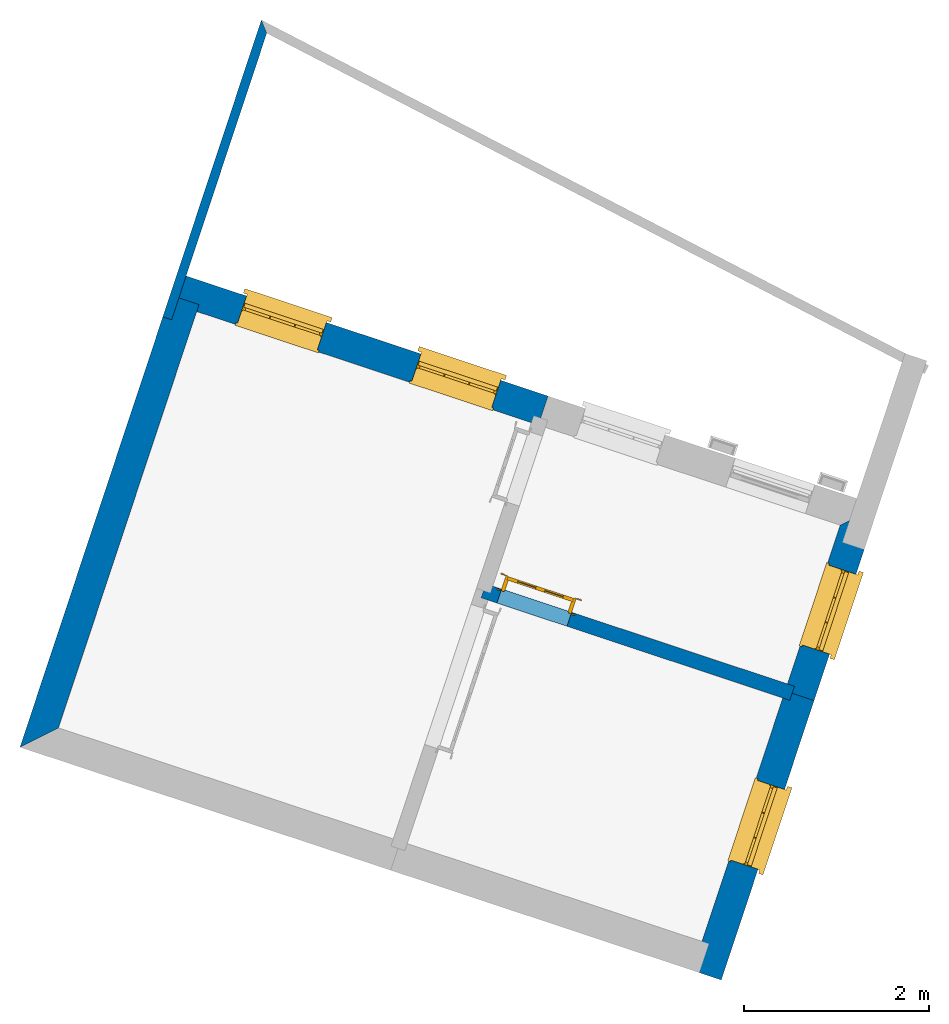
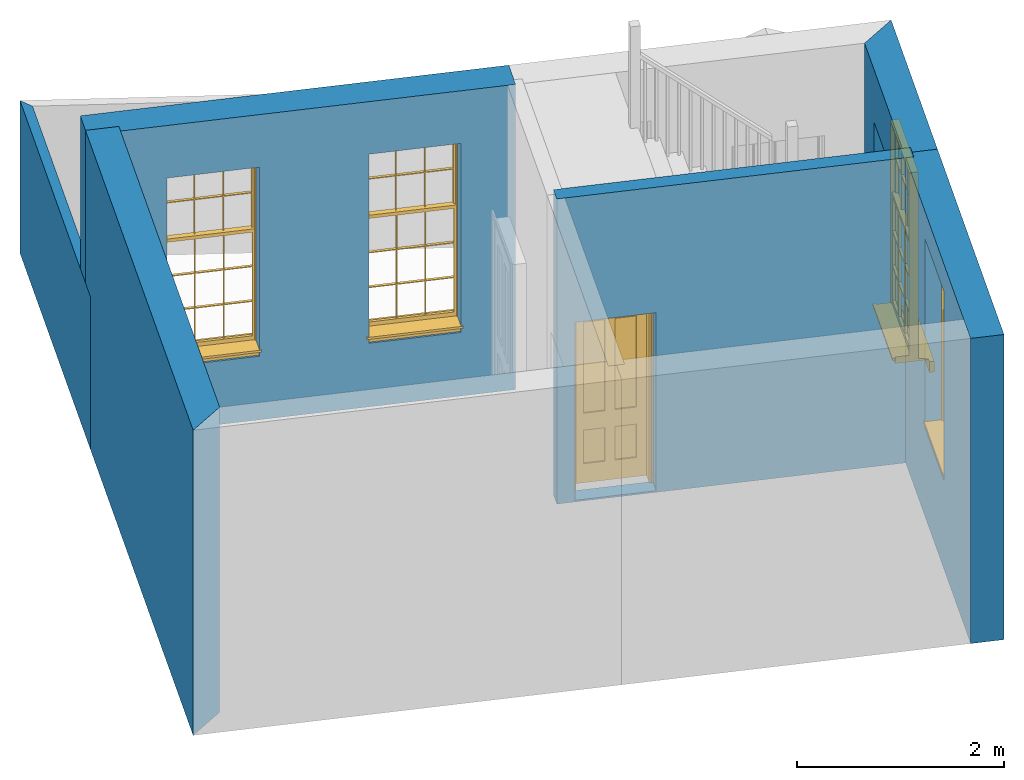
# One storey, part 2 of 6: 6 walls, 4 windows, 1 door, 5 openings.
"""IFC4 building model written with IfcOpenShell, lengths in metres."""

from ifc_helpers import new_model, si_unit, frame, origin, origin_with_axes, place, context, subcontext, project, spatial, polyline, outline, extrude, faceted_brep, source, transform, mapped, material, layer, layer_set, layer_usage, type_object, type_shapes, element, fill, save


model = new_model("IFC4")

# Units and contexts
model_context = context("Model", 3, world=origin_with_axes())
body_context = subcontext(model_context, "Body", "Model", "MODEL_VIEW")
ifc_project = project(units=[si_unit("PLANEANGLEUNIT", "RADIAN"), si_unit("MASSUNIT", "GRAM", prefix="KILO"), si_unit("FORCEUNIT", "NEWTON", prefix="KILO"), si_unit("LENGTHUNIT", "METRE"), si_unit("AREAUNIT", "SQUARE_METRE"), si_unit("VOLUMEUNIT", "CUBIC_METRE")], contexts=[model_context, model_context])

# Sites, building, storey
site_1_placement = place(None, origin_with_axes())
site_1 = spatial("IfcSite", under=ifc_project, at=site_1_placement, Name="Tamar")
site_2_placement = place(site_1_placement, origin_with_axes())
site_2 = spatial("IfcSite", under=site_1, at=site_2_placement, Name="Site plot-17", CompositionType="ELEMENT")
building_placement = place(None, origin_with_axes())
building = spatial("IfcBuilding", under=site_2, at=building_placement, Name="Building plot-17", CompositionType="ELEMENT")
storey_placement = place(None, frame((0.0, 0.0, 26.8), z_axis=(0.0, 0.0, 1.0), x_axis=(1.0, 0.0, 0.0)))
storey = spatial("IfcBuildingStorey", under=building, at=storey_placement, Name="plot-17 0", CompositionType="ELEMENT", Elevation=26.8)

# Wall, opening, window
ifc_material_1 = material(Name="Masonry")
ifc_layer_1 = layer(ifc_material_1, 0.33, ventilated=False)
ifc_layer_set_1 = layer_set([ifc_layer_1], Name="exterior_0.08_0.25")
ifc_layer_usage_1 = layer_usage(ifc_layer_set_1, "AXIS2", "POSITIVE", -0.25)
wall_type_1 = type_object("IfcWallType", Name="exterior_0.08_0.25", PredefinedType="SOLIDWALL", material=ifc_layer_set_1)
wall_1_placement = place(storey_placement, frame((272.909805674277, 300.590860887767, 0.0), z_axis=(0.0, 0.0, 1.0), x_axis=(0.315038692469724, 0.949078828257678, 0.0)))
wall_1 = element("IfcWall", 1, at=wall_1_placement, inside=storey, type_object=wall_type_1, material=ifc_layer_usage_1, Name="exterior", context=body_context, shape_type="SweptSolid", body=[
    extrude(outline(polyline([(-0.249999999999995, 0.0799999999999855), (-0.249999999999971, -0.249999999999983), (2.93790855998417, -0.249999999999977), (2.93790855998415, 0.0799999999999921), (-0.249999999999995, 0.0799999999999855)])), origin_with_axes(), (0.0, 0.0, 1.0), 3.6),
])
opening_1_placement = place(wall_1_placement, frame((1.01395427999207, 0.0, 1.05)))
opening_1 = element("IfcOpeningElement", 2, at=opening_1_placement, cuts=wall_1, Name="My Opening", ObjectType="Opening", context=body_context, shape_type="SweptSolid", body=[
    extrude(outline(polyline([(0.0, -0.270000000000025), (0.909999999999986, -0.270000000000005), (0.910000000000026, 1.10000000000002), (3.99680288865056e-14, 1.1), (0.0, -0.270000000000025)])), origin_with_axes(), (0.0, 0.0, 1.0), 2.23),
])
window_type = type_object("IfcWindowType", Name="sash_big_taller", PartitioningType="DOUBLE_PANEL_HORIZONTAL", PredefinedType="NOTDEFINED")
shared_shape_1 = source(origin(), body_context, "Body", "Brep", [
    faceted_brep([(0.033125, 0.145, 1.385209), (0.01, 0.145, 1.385209), (0.033125, 0.145, 1.786042), (0.876875, 0.145, 1.385209), (0.876875, 0.145, 1.786042), (0.9, 0.145, 1.385209), (0.876875, 0.145, 1.796042), (0.876875, 0.145, 2.196875), (0.9, 0.145, 2.22), (0.033125, 0.145, 2.196875), (0.033125, 0.145, 1.796042), (0.01, 0.145, 2.22), (0.876875, 0.115, 1.786042), (0.876875, 0.115, 1.385209), (0.9, 0.115, 1.347084), (0.033125, 0.115, 2.196875), (0.01, 0.115, 2.22), (0.033125, 0.115, 1.796042), (0.01, 0.115, 1.347084), (0.033125, 0.115, 1.385209), (0.033125, 0.115, 1.786042), (0.876875, 0.115, 2.196875), (0.876875, 0.115, 1.796042), (0.9, 0.115, 2.22), (0.033125, 0.145, 1.347084), (0.01, 0.145, 1.347084), (0.033125, 0.145, 0.94625), (0.876875, 0.145, 1.347084), (0.876875, 0.145, 0.94625), (0.9, 0.145, 1.347084), (0.876875, 0.145, 0.52625), (0.876875, 0.145, 0.125417), (0.9, 0.145, 0.077167), (0.033125, 0.145, 0.125417), (0.033125, 0.145, 0.52625), (0.01, 0.145, 0.077167), (-0.0425, 0.0, 0.01), (-0.0425, -0.05, 0.001667), (0.0, 0.0, 0.01), (0.9525, 0.0, 0.01), (0.91, 0.0, 0.01), (0.9525, -0.05, 0.001667), (-0.02, 0.33, 0.077167), (0.0, 0.33, 0.077167), (-0.02, 0.36, 0.077167), (0.0, 0.19, 0.077167), (0.01, 0.19, 0.077167), (0.91, 0.19, 0.077167), (0.91, 0.33, 0.077167), (0.9, 0.19, 0.077167), (0.93, 0.33, 0.077167), (0.93, 0.36, 0.077167), (0.01, 0.175, 1.385209), (0.9, 0.175, 1.385209), (0.876875, 0.175, 0.125417), (0.876875, 0.175, 0.52625), (0.9, 0.175, 0.077167), (0.876875, 0.175, 0.94625), (0.876875, 0.175, 1.347084), (0.033125, 0.175, 0.125417), (0.01, 0.175, 0.077167), (0.033125, 0.175, 0.52625), (0.033125, 0.175, 1.347084), (0.033125, 0.175, 0.94625), (-0.02, 0.33, 0.052167), (-0.02, 0.36, 0.052167), (0.93, 0.36, 0.052167), (0.93, 0.33, 0.052167), (0.91, 0.33, 0.052167), (0.0, 0.33, 0.052167), (0.91, 0.1, 0.026667), (0.0, 0.1, 0.026667), (-0.0425, -0.05, -0.123333), (0.9525, -0.05, -0.123333), (-0.0425, 0.0, -0.123333), (0.9525, 0.0, -0.123333), (0.01, 0.19, 2.22), (0.9, 0.19, 2.22), (0.0, 0.19, 2.23), (0.91, 0.19, 2.23), (0.01, 0.1, 0.077167), (0.9, 0.1, 0.077167), (0.592292, 0.145, 0.125417), (0.592292, 0.175, 0.125417), (0.317708, 0.175, 0.125417), (0.317708, 0.145, 0.125417), (0.592292, 0.145, 0.53625), (0.317708, 0.145, 0.53625), (0.317708, 0.145, 0.52625), (0.592292, 0.145, 0.52625), (0.592292, 0.175, 0.53625), (0.317708, 0.175, 0.53625), (0.592292, 0.115, 1.796042), (0.592292, 0.145, 1.796042), (0.317708, 0.145, 1.796042), (0.317708, 0.115, 1.796042), (0.317708, 0.115, 1.786042), (0.592292, 0.115, 1.786042), (0.317708, 0.145, 1.786042), (0.592292, 0.145, 1.786042), (0.602292, 0.115, 1.786042), (0.592292, 0.115, 1.385209), (0.602292, 0.115, 1.385209), (0.602292, 0.145, 1.385209), (0.592292, 0.145, 1.385209), (0.602292, 0.145, 1.786042), (0.876875, 0.145, 0.53625), (0.876875, 0.175, 0.53625), (0.602292, 0.175, 0.53625), (0.602292, 0.145, 0.53625), (0.317708, 0.175, 0.52625), (0.307708, 0.175, 0.125417), (0.307708, 0.175, 0.52625), (0.602292, 0.175, 0.52625), (0.602292, 0.175, 0.125417), (0.592292, 0.175, 0.52625), (0.307708, 0.175, 0.53625), (0.033125, 0.175, 0.53625), (0.317708, 0.175, 1.347084), (0.317708, 0.175, 0.94625), (0.307708, 0.175, 0.94625), (0.307708, 0.175, 1.347084), (0.602292, 0.175, 1.347084), (0.602292, 0.175, 0.94625), (0.592292, 0.175, 0.94625), (0.592292, 0.175, 1.347084), (0.307708, 0.145, 0.52625), (0.307708, 0.145, 0.125417), (0.307708, 0.145, 0.53625), (0.033125, 0.145, 0.53625), (0.307708, 0.145, 1.347084), (0.307708, 0.145, 0.94625), (0.592292, 0.145, 1.347084), (0.592292, 0.145, 0.94625), (0.317708, 0.145, 0.94625), (0.317708, 0.145, 1.347084), (0.602292, 0.145, 0.94625), (0.602292, 0.145, 1.347084), (0.602292, 0.145, 0.52625), (0.602292, 0.145, 0.125417), (0.307708, 0.115, 1.796042), (0.307708, 0.115, 1.786042), (0.307708, 0.115, 1.385209), (0.317708, 0.115, 1.385209), (0.317708, 0.115, 2.196875), (0.307708, 0.115, 2.196875), (0.602292, 0.115, 2.196875), (0.592292, 0.115, 2.196875), (0.602292, 0.115, 1.796042), (0.602292, 0.145, 1.796042), (0.307708, 0.145, 1.796042), (0.307708, 0.145, 2.196875), (0.317708, 0.145, 2.196875), (0.592292, 0.145, 2.196875), (0.602292, 0.145, 2.196875), (0.307708, 0.145, 1.786042), (0.317708, 0.145, 1.385209), (0.307708, 0.145, 1.385209), (0.876875, 0.175, 0.93625), (0.033125, 0.175, 0.93625), (0.033125, 0.145, 0.93625), (0.876875, 0.145, 0.93625), (0.91, 0.1, 2.23), (0.9, 0.1, 2.22), (0.01, 0.1, 2.22), (0.0, 0.1, 2.23), (0.91, 0.0, 0.0), (0.0, 0.0, 0.0), (0.91, 0.33, 0.0), (0.0, 0.33, 0.0), (0.317708, 0.145, 0.93625), (0.592292, 0.145, 0.93625), (0.317708, 0.175, 0.93625), (0.307708, 0.175, 0.93625), (0.602292, 0.175, 0.93625), (0.592292, 0.175, 0.93625), (0.307708, 0.145, 0.93625), (0.602292, 0.145, 0.93625)], [[[0, 1, 2]], [[3, 4, 5]], [[6, 7, 8]], [[9, 10, 11]], [[12, 13, 14]], [[15, 16, 17]], [[18, 19, 20]], [[21, 22, 23]], [[24, 25, 26]], [[27, 28, 29]], [[30, 31, 32]], [[33, 34, 35]], [[14, 27, 29]], [[25, 24, 18]], [[36, 37, 38]], [[39, 40, 41]], [[42, 43, 44]], [[45, 46, 43]], [[47, 48, 49]], [[50, 51, 48]], [[1, 0, 52]], [[5, 53, 3]], [[54, 55, 56]], [[57, 58, 53]], [[59, 60, 61]], [[62, 63, 52]], [[48, 43, 46, 49]], [[51, 44, 43, 48]], [[64, 42, 44, 65]], [[65, 44, 51, 66]], [[66, 51, 50, 67]], [[65, 66, 68, 69]], [[60, 56, 49, 46]], [[70, 71, 38, 40]], [[37, 41, 40, 38]], [[37, 72, 73, 41]], [[74, 75, 73, 72]], [[8, 11, 76, 77]], [[76, 78, 79, 77]], [[32, 35, 80, 81]], [[81, 80, 71, 70]], [[82, 83, 84, 85]], [[86, 87, 88, 89]], [[86, 90, 91, 87]], [[92, 93, 94, 95]], [[92, 95, 96, 97]], [[96, 98, 99, 97]], [[100, 97, 101, 102]], [[103, 104, 99, 105]], [[97, 99, 104, 101]], [[102, 103, 105, 100]], [[106, 107, 108, 109]], [[110, 84, 111, 112]], [[113, 114, 83, 115]], [[116, 112, 61, 117]], [[90, 115, 110, 91]], [[118, 119, 120, 121]], [[122, 123, 124, 125]], [[113, 108, 107, 55]], [[126, 112, 111, 127]], [[34, 61, 112, 126]], [[89, 115, 83, 82]], [[88, 110, 115, 89]], [[85, 84, 110, 88]], [[128, 116, 117, 129]], [[130, 121, 120, 131]], [[132, 125, 124, 133]], [[134, 119, 118, 135]], [[136, 123, 122, 137]], [[138, 113, 55, 30]], [[139, 114, 113, 138]], [[138, 30, 106, 109]], [[88, 126, 127, 85]], [[138, 89, 82, 139]], [[137, 132, 133, 136]], [[128, 129, 34, 126]], [[135, 130, 131, 134]], [[140, 17, 20, 141]], [[96, 141, 142, 143]], [[144, 145, 140, 95]], [[146, 147, 92, 148]], [[100, 12, 22, 148]], [[149, 6, 4, 105]], [[94, 150, 151, 152]], [[149, 93, 153, 154]], [[99, 98, 94, 93]], [[155, 2, 10, 150]], [[156, 157, 155, 98]], [[141, 155, 157, 142]], [[20, 2, 155, 141]], [[143, 156, 98, 96]], [[140, 150, 10, 17]], [[145, 151, 150, 140]], [[147, 153, 93, 92]], [[95, 94, 152, 144]], [[22, 6, 149, 148]], [[148, 149, 154, 146]], [[100, 105, 4, 12]], [[109, 86, 89, 138]], [[108, 113, 115, 90]], [[91, 110, 112, 116]], [[87, 128, 126, 88]], [[97, 100, 148, 92]], [[141, 96, 95, 140]], [[98, 155, 150, 94]], [[105, 99, 93, 149]], [[143, 101, 104, 156]], [[135, 118, 125, 132]], [[144, 152, 153, 147]], [[127, 111, 59, 33]], [[15, 9, 151, 145]], [[146, 154, 7, 21]], [[31, 54, 114, 139]], [[36, 74, 72, 37]], [[39, 41, 73, 75]], [[18, 14, 101, 143]], [[23, 16, 144, 147]], [[83, 56, 60, 84]], [[52, 53, 125, 118]], [[53, 52, 156, 104]], [[11, 8, 153, 152]], [[14, 18, 135, 132]], [[2, 1, 11, 10]], [[8, 5, 4, 6]], [[57, 53, 56, 158]], [[60, 52, 63, 159]], [[26, 25, 35, 160]], [[32, 29, 28, 161]], [[14, 23, 22, 12]], [[18, 20, 17, 16]], [[19, 0, 2, 20]], [[17, 10, 9, 15]], [[12, 4, 3, 13]], [[21, 7, 6, 22]], [[27, 58, 57, 28]], [[30, 55, 54, 31]], [[33, 59, 61, 34]], [[26, 63, 62, 24]], [[5, 8, 77, 53]], [[76, 11, 1, 52]], [[46, 45, 78, 76]], [[49, 77, 79, 47]], [[70, 162, 163, 81]], [[71, 80, 164, 165]], [[19, 142, 157, 0]], [[102, 13, 3, 103]], [[121, 130, 24, 62]], [[29, 32, 81, 14]], [[80, 35, 25, 18]], [[60, 46, 76, 52]], [[77, 49, 56, 53]], [[23, 14, 81, 163]], [[16, 164, 80, 18]], [[35, 85, 127]], [[127, 33, 35]], [[139, 82, 32]], [[32, 31, 139]], [[32, 82, 85, 35]], [[102, 101, 14]], [[14, 13, 102]], [[18, 143, 142]], [[142, 19, 18]], [[146, 21, 23]], [[23, 147, 146]], [[16, 15, 145]], [[145, 144, 16]], [[11, 152, 151]], [[151, 9, 11]], [[154, 153, 8]], [[8, 7, 154]], [[23, 163, 164, 16]], [[162, 165, 164, 163]], [[52, 118, 121]], [[121, 62, 52]], [[125, 53, 122]], [[58, 122, 53]], [[27, 137, 122, 58]], [[56, 83, 114]], [[114, 54, 56]], [[111, 84, 60]], [[60, 59, 111]], [[137, 27, 14]], [[14, 132, 137]], [[130, 135, 18]], [[18, 24, 130]], [[157, 156, 52]], [[52, 0, 157]], [[103, 3, 53]], [[53, 104, 103]], [[79, 78, 165, 162]], [[78, 45, 71, 165]], [[162, 70, 47, 79]], [[166, 75, 74, 167]], [[68, 66, 67]], [[48, 68, 67, 50]], [[69, 64, 65]], [[42, 64, 69, 43]], [[69, 68, 168, 169]], [[70, 68, 48, 47]], [[166, 168, 68, 70]], [[43, 69, 71, 45]], [[69, 169, 167, 71]], [[168, 166, 167, 169]], [[38, 167, 74, 36]], [[71, 167, 38]], [[39, 75, 166, 40]], [[40, 166, 70]], [[133, 134, 170, 171]], [[133, 124, 119, 134]], [[28, 57, 123, 136]], [[172, 91, 116, 173]], [[174, 108, 90, 175]], [[120, 173, 159, 63]], [[124, 175, 172, 119]], [[174, 123, 57, 158]], [[176, 173, 116, 128]], [[160, 159, 173, 176]], [[171, 175, 90, 86]], [[170, 172, 175, 171]], [[87, 91, 172, 170]], [[131, 120, 63, 26]], [[177, 174, 158, 161]], [[109, 108, 174, 177]], [[177, 161, 28, 136]], [[170, 176, 128, 87]], [[177, 171, 86, 109]], [[131, 26, 160, 176]], [[136, 133, 171, 177]], [[123, 174, 175, 124]], [[119, 172, 173, 120]], [[134, 131, 176, 170]], [[129, 117, 159, 160]], [[161, 158, 107, 106]], [[35, 34, 129]], [[35, 129, 160]], [[32, 106, 30]], [[32, 161, 106]], [[56, 55, 107]], [[56, 107, 158]], [[60, 117, 61]], [[60, 159, 117]]]),
])
type_shapes(window_type, [shared_shape_1])
window_1_placement = place(storey_placement, frame((273.485491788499, 301.468122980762, 1.05), z_axis=(0.0, 0.0, 1.0), x_axis=(0.286685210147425, 0.86366173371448, 0.0)))
window_1 = element("IfcWindow", 3, at=window_1_placement, inside=storey, type_object=window_type, Name="kitchen street window", OverallHeight=2.23, OverallWidth=0.91, context=body_context, shape_type="MappedRepresentation", body=[
    mapped(shared_shape_1, transform((0.0, 0.0, 0.0), scale=1.0)),
])
fill(opening_1, window_1)

wall_2_placement = place(storey_placement, frame((273.83536054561, 303.379167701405, 0.0), z_axis=(0.0, 0.0, 1.0), x_axis=(0.315038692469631, 0.949078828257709, 0.0)))
wall_2 = element("IfcWall", 4, at=wall_2_placement, inside=storey, type_object=wall_type_1, material=ifc_layer_usage_1, Name="exterior", context=body_context, shape_type="SweptSolid", body=[
    extrude(outline(polyline([(-1.07242967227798e-14, 0.0799999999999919), (-1.81368383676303e-14, -0.249999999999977), (2.2209590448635, -0.249999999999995), (1.89095904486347, 0.0800000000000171), (-1.07242967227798e-14, 0.0799999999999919)])), origin_with_axes(), (0.0, 0.0, 1.0), 3.6),
])
opening_2_placement = place(wall_2_placement, frame((0.530479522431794, 0.0, 0.75)))
opening_2 = element("IfcOpeningElement", 5, at=opening_2_placement, cuts=wall_2, Name="My Opening", ObjectType="Opening", context=body_context, shape_type="SweptSolid", body=[
    extrude(outline(polyline([(0.0, -0.26999999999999), (0.909999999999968, -0.270000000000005), (0.909999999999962, 1.10000000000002), (-6.10622663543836e-15, 1.10000000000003), (0.0, -0.26999999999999)])), origin_with_axes(), (0.0, 0.0, 1.0), 2.23),
])
window_2_placement = place(storey_placement, frame((274.258733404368, 303.797574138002, 0.75), z_axis=(0.0, 0.0, 1.0), x_axis=(0.286685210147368, 0.86366173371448, 0.0)))
window_2 = element("IfcWindow", 6, at=window_2_placement, inside=storey, type_object=window_type, Name="circulation street window", OverallHeight=2.23, OverallWidth=0.91, context=body_context, shape_type="MappedRepresentation", body=[
    mapped(shared_shape_1, transform((0.0, 0.0, 0.0), scale=1.0)),
])
fill(opening_2, window_2)

# Wall, openings, windows
wall_3_placement = place(storey_placement, frame((271.113771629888, 306.359283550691, 0.0), z_axis=(0.0, 0.0, 1.0), x_axis=(-0.949078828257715, 0.315038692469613, 0.0)))
wall_3 = element("IfcWall", 7, at=wall_3_placement, inside=storey, type_object=wall_type_1, material=ifc_layer_usage_1, Name="exterior", context=body_context, shape_type="SweptSolid", body=[
    extrude(outline(polyline([(-9.26768411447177e-15, 0.0799999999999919), (-2.27997750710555e-14, -0.249999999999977), (4.22814578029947, -0.250000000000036), (4.22814578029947, 0.0799999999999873), (-9.26768411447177e-15, 0.0799999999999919)])), origin_with_axes(), (0.0, 0.0, 1.0), 3.6),
])
opening_3_placement = place(wall_3_placement, frame((0.539536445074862, 0.0, 0.75)))
opening_3 = element("IfcOpeningElement", 8, at=opening_3_placement, cuts=wall_3, Name="My Opening", ObjectType="Opening", context=body_context, shape_type="SweptSolid", body=[
    extrude(outline(polyline([(0.0, -0.269999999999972), (0.910000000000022, -0.269999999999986), (0.909999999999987, 1.10000000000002), (-3.45279360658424e-14, 1.10000000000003), (0.0, -0.269999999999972)])), origin_with_axes(), (0.0, 0.0, 1.0), 2.23),
])
opening_4_placement = place(wall_3_placement, frame((2.52860933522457, 0.0, 0.75)))
opening_4 = element("IfcOpeningElement", 9, at=opening_4_placement, cuts=wall_3, Name="My Opening", ObjectType="Opening", context=body_context, shape_type="SweptSolid", body=[
    extrude(outline(polyline([(0.0, -0.270000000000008), (0.910000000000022, -0.270000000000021), (0.909999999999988, 1.09999999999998), (-3.41948691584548e-14, 1.1), (0.0, -0.270000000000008)])), origin_with_axes(), (0.0, 0.0, 1.0), 2.23),
])
window_3_placement = place(storey_placement, frame((270.686769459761, 306.785509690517, 0.75), z_axis=(0.0, 0.0, 1.0), x_axis=(-0.863661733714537, 0.286685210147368, 0.0)))
window_3 = element("IfcWindow", 10, at=window_3_placement, inside=storey, type_object=window_type, Name="living outside window", OverallHeight=2.23, OverallWidth=0.91, context=body_context, shape_type="MappedRepresentation", body=[
    mapped(shared_shape_1, transform((0.0, 0.0, 0.0), scale=1.0)),
])
fill(opening_3, window_3)
window_4_placement = place(storey_placement, frame((268.798982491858, 307.412144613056, 0.75), z_axis=(0.0, 0.0, 1.0), x_axis=(-0.863661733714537, 0.286685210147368, 0.0)))
window_4 = element("IfcWindow", 11, at=window_4_placement, inside=storey, type_object=window_type, Name="living outside window", OverallHeight=2.23, OverallWidth=0.91, context=body_context, shape_type="MappedRepresentation", body=[
    mapped(shared_shape_1, transform((0.0, 0.0, 0.0), scale=1.0)),
])
fill(opening_4, window_4)

# Wall
ifc_material_2 = material(Name="Masonry")
ifc_layer_2 = layer(ifc_material_2, 0.33, ventilated=False)
ifc_layer_set_2 = layer_set([ifc_layer_2], Name="party_0.08_0.25")
ifc_layer_usage_2 = layer_usage(ifc_layer_set_2, "AXIS2", "POSITIVE", -0.25)
wall_type_2 = type_object("IfcWallType", Name="party_0.08_0.25", PredefinedType="SOLIDWALL", material=ifc_layer_set_2)
wall_4_placement = place(storey_placement, frame((267.338197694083, 307.61255339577, 0.0), z_axis=(0.0, 0.0, 1.0), x_axis=(-0.315038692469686, -0.94907882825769, 0.0)))
element("IfcWall", 12, at=wall_4_placement, inside=storey, type_object=wall_type_2, material=ifc_layer_usage_2, Name="party", context=body_context, shape_type="SweptSolid", body=[
    extrude(outline(polyline([(-1.54334731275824e-14, 0.0799999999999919), (-3.53740559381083e-15, -0.249999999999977), (5.15886760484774, -0.249999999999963), (4.82886760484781, 0.0800000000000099), (-1.54334731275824e-14, 0.0799999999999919)])), origin_with_axes(), (0.0, 0.0, 1.0), 3.6),
])

# Wall, opening, door
ifc_material_3 = material(Name="Masonry")
ifc_layer_3 = layer(ifc_material_3, 0.16, ventilated=False)
ifc_layer_set_3 = layer_set([ifc_layer_3], Name="interior_0.08_0.08")
ifc_layer_usage_3 = layer_usage(ifc_layer_set_3, "AXIS2", "POSITIVE", -0.08)
wall_type_3 = type_object("IfcWallType", Name="interior_0.08_0.08", PredefinedType="SOLIDWALL", material=ifc_layer_set_3)
wall_5_placement = place(storey_placement, frame((270.492843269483, 304.488688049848, 0.0), z_axis=(0.0, 0.0, 1.0), x_axis=(0.949078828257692, -0.315038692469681, 0.0)))
wall_5 = element("IfcWall", 13, at=wall_5_placement, inside=storey, type_object=wall_type_3, material=ifc_layer_usage_3, Name="interior", context=body_context, shape_type="SweptSolid", body=[
    extrude(outline(polyline([(-1.498755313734e-14, 0.0799999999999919), (1.49777559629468e-14, -0.0799999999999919), (3.52185421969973, -0.079999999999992), (3.5218542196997, 0.0799999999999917), (-1.498755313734e-14, 0.0799999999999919)])), origin_with_axes(), (0.0, 0.0, 1.0), 3.6),
])
opening_5_placement = place(wall_5_placement, frame((0.180000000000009, 0.0, 0.0199999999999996)))
opening_5 = element("IfcOpeningElement", 14, at=opening_5_placement, cuts=wall_5, Name="My Opening", ObjectType="Opening", context=body_context, shape_type="SweptSolid", body=[
    extrude(outline(polyline([(0.0, -0.100000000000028), (0.799999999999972, -0.10000000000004), (0.799999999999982, 1.10000000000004), (9.27036225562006e-15, 1.10000000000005), (0.0, -0.100000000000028)])), origin_with_axes(), (0.0, 0.0, 1.0), 2.1),
])
door_type = type_object("IfcDoorType", Name="door_inside", OperationType="SINGLE_SWING_LEFT", PredefinedType="NOTDEFINED")
shared_shape_2 = source(origin(), body_context, "Body", "Brep", [
    faceted_brep([(0.773, 0.33, 1.895), (0.66, 0.33, 1.895), (0.66, 0.33, 2.073), (0.773, 0.33, 2.073), (0.773, 0.33, 0.82), (0.66, 0.33, 0.82), (0.45, 0.33, 1.895), (0.45, 0.33, 2.073), (0.773, 0.33, 0.62), (0.66, 0.33, 0.62), (0.66, 0.315, 0.82), (0.66, 0.315, 1.895), (0.45, 0.315, 1.895), (0.35, 0.33, 1.895), (0.35, 0.33, 2.073), (0.773, 0.33, 0.225), (0.66, 0.33, 0.225), (0.45, 0.33, 0.62), (0.45, 0.33, 0.82), (0.45, 0.315, 0.82), (0.35, 0.33, 0.82), (0.14, 0.33, 2.073), (0.14, 0.33, 1.895), (0.773, 0.33, 0.0), (0.66, 0.33, 0.0), (0.66, 0.315, 0.225), (0.66, 0.315, 0.62), (0.45, 0.315, 0.62), (0.35, 0.33, 0.62), (0.35, 0.315, 0.82), (0.35, 0.315, 1.895), (0.14, 0.315, 1.895), (0.027, 0.33, 2.073), (0.027, 0.33, 1.895), (0.773, 0.292, 0.0), (0.66, 0.292, 0.0), (0.45, 0.33, 0.0), (0.45, 0.33, 0.225), (0.45, 0.315, 0.225), (0.35, 0.33, 0.225), (0.14, 0.33, 0.82), (0.14, 0.33, 0.62), (0.14, 0.315, 0.82), (0.027, 0.33, 0.82), (0.773, 0.292, 0.225), (0.66, 0.292, 0.225), (0.45, 0.292, 0.0), (0.35, 0.33, 0.0), (0.35, 0.315, 0.225), (0.35, 0.315, 0.62), (0.14, 0.315, 0.62), (0.027, 0.33, 0.62), (0.773, 0.292, 0.62), (0.66, 0.292, 0.62), (0.45, 0.292, 0.225), (0.35, 0.292, 0.0), (0.14, 0.33, 0.225), (0.14, 0.33, 0.0), (0.14, 0.315, 0.225), (0.027, 0.33, 0.225), (0.773, 0.292, 0.82), (0.66, 0.292, 0.82), (0.66, 0.307, 0.62), (0.66, 0.307, 0.225), (0.45, 0.307, 0.225), (0.35, 0.292, 0.225), (0.14, 0.292, 0.0), (0.027, 0.33, 0.0), (0.773, 0.292, 1.895), (0.66, 0.292, 1.895), (0.45, 0.292, 0.62), (0.45, 0.292, 0.82), (0.45, 0.307, 0.62), (0.35, 0.292, 0.62), (0.14, 0.292, 0.225), (0.027, 0.292, 0.0), (0.773, 0.292, 2.073), (0.66, 0.292, 2.073), (0.66, 0.307, 1.895), (0.66, 0.307, 0.82), (0.45, 0.307, 0.82), (0.35, 0.292, 0.82), (0.35, 0.307, 0.62), (0.35, 0.307, 0.225), (0.14, 0.307, 0.225), (0.027, 0.292, 0.225), (0.45, 0.292, 1.895), (0.45, 0.292, 2.073), (0.45, 0.307, 1.895), (0.35, 0.292, 1.895), (0.14, 0.292, 0.82), (0.14, 0.292, 0.62), (0.14, 0.307, 0.62), (0.027, 0.292, 0.62), (0.35, 0.292, 2.073), (0.35, 0.307, 1.895), (0.35, 0.307, 0.82), (0.14, 0.307, 0.82), (0.027, 0.292, 0.82), (0.14, 0.292, 2.073), (0.14, 0.292, 1.895), (0.14, 0.307, 1.895), (0.027, 0.292, 1.895), (0.027, 0.292, 2.073), (0.02, 0.335, 0.0), (0.005, 0.34, 0.0), (0.005, 0.34, 2.095), (0.02, 0.335, 2.08), (0.02, 0.33, 0.0), (0.0, 0.335, 0.0), (0.0, 0.335, 2.1), (0.795, 0.34, 2.095), (0.78, 0.335, 2.08), (0.02, 0.33, 2.08), (0.0, 0.33, 0.0), (-0.032, 0.345, 0.0), (-0.032, 0.345, 2.132), (0.8, 0.335, 2.1), (0.795, 0.34, 0.0), (0.78, 0.335, 0.0), (0.78, 0.33, 2.08), (0.04, 0.29, 0.0), (0.025, 0.29, 0.0), (0.025, 0.29, 2.075), (0.04, 0.29, 2.06), (-0.04, 0.34, 0.0), (-0.04, 0.34, 2.14), (0.832, 0.345, 2.132), (0.8, 0.335, 0.0), (0.78, 0.33, 0.0), (0.8, 0.33, 0.0), (0.86, 0.33, 0.0), (0.86, 0.33, 2.16), (0.8, 0.33, 2.1), (-0.06, 0.33, 2.16), (0.0, 0.33, 2.1), (-0.06, 0.33, 0.0), (-0.04, 0.345, 0.0), (-0.04, 0.345, 2.14), (0.84, 0.34, 2.14), (0.832, 0.345, 0.0), (0.84, 0.34, 0.0), (0.86, 0.345, 0.0), (0.86, 0.345, 2.16), (-0.06, 0.345, 2.16), (-0.06, 0.345, 0.0), (0.84, 0.345, 0.0), (0.84, 0.345, 2.14), (-0.025, 0.155, 0.0), (-0.025, 0.16, 0.0), (-0.025, 0.16, 2.125), (-0.025, 0.155, 2.125), (-0.017, 0.155, 0.0), (-0.017, 0.155, 2.117), (0.825, 0.16, 2.125), (0.825, 0.155, 2.125), (0.825, 0.155, 0.0), (0.845, 0.155, 0.0), (-0.045, 0.155, 2.145), (-0.045, 0.155, 0.0), (0.845, 0.155, 2.145), (0.015, 0.165, 0.0), (0.015, 0.165, 2.085), (0.817, 0.155, 2.117), (0.825, 0.16, 0.0), (0.845, 0.17, 0.0), (0.845, 0.17, 2.145), (-0.045, 0.17, 2.145), (-0.045, 0.17, 0.0), (0.02, 0.16, 0.0), (0.02, 0.16, 2.08), (0.785, 0.165, 2.085), (0.817, 0.155, 0.0), (0.8, 0.17, 0.0), (0.8, 0.17, 2.1), (0.0, 0.17, 2.1), (0.0, 0.17, 0.0), (0.035, 0.165, 0.0), (0.035, 0.165, 2.065), (0.78, 0.16, 2.08), (0.785, 0.165, 0.0), (0.775, 0.29, 2.075), (0.76, 0.29, 2.06), (0.035, 0.17, 2.065), (0.035, 0.17, 0.0), (0.765, 0.165, 2.065), (0.78, 0.16, 0.0), (0.765, 0.17, 0.0), (0.765, 0.17, 2.065), (0.765, 0.165, 0.0), (0.04, 0.17, 2.06), (0.04, 0.17, 0.0), (0.76, 0.17, 2.06), (0.76, 0.17, 0.0), (0.76, 0.29, 0.0), (0.775, 0.29, 0.0), (0.025, 0.33, 0.0), (0.025, 0.33, 2.075), (0.775, 0.33, 0.0), (0.775, 0.33, 2.075)], [[[0, 1, 2, 3]], [[1, 0, 4, 5]], [[1, 6, 7, 2]], [[8, 9, 5, 4]], [[1, 5, 10, 11]], [[6, 1, 11, 12]], [[6, 13, 14, 7]], [[15, 16, 9, 8]], [[9, 17, 18, 5]], [[5, 18, 19, 10]], [[10, 19, 12, 11]], [[18, 6, 12, 19]], [[18, 20, 13, 6]], [[21, 14, 13, 22]], [[23, 24, 16, 15]], [[9, 16, 25, 26]], [[17, 9, 26, 27]], [[17, 28, 20, 18]], [[13, 20, 29, 30]], [[22, 13, 30, 31]], [[32, 21, 22, 33]], [[34, 35, 24, 23]], [[24, 36, 37, 16]], [[16, 37, 38, 25]], [[25, 38, 27, 26]], [[37, 17, 27, 38]], [[37, 39, 28, 17]], [[40, 20, 28, 41]], [[20, 40, 42, 29]], [[31, 30, 29, 42]], [[40, 22, 31, 42]], [[33, 22, 40, 43]], [[35, 34, 44, 45]], [[35, 46, 36, 24]], [[36, 47, 39, 37]], [[28, 39, 48, 49]], [[41, 28, 49, 50]], [[43, 40, 41, 51]], [[45, 44, 52, 53]], [[46, 35, 45, 54]], [[46, 55, 47, 36]], [[56, 39, 47, 57]], [[39, 56, 58, 48]], [[50, 49, 48, 58]], [[56, 41, 50, 58]], [[51, 41, 56, 59]], [[53, 52, 60, 61]], [[45, 53, 62, 63]], [[54, 45, 63, 64]], [[55, 46, 54, 65]], [[55, 66, 57, 47]], [[59, 56, 57, 67]], [[61, 60, 68, 69]], [[70, 53, 61, 71]], [[53, 70, 72, 62]], [[72, 64, 63, 62]], [[70, 54, 64, 72]], [[65, 54, 70, 73]], [[65, 74, 66, 55]], [[67, 57, 66, 75]], [[69, 68, 76, 77]], [[61, 69, 78, 79]], [[71, 61, 79, 80]], [[73, 70, 71, 81]], [[65, 73, 82, 83]], [[74, 65, 83, 84]], [[74, 85, 75, 66]], [[86, 69, 77, 87]], [[69, 86, 88, 78]], [[88, 80, 79, 78]], [[86, 71, 80, 88]], [[81, 71, 86, 89]], [[73, 81, 90, 91]], [[73, 91, 92, 82]], [[83, 82, 92, 84]], [[91, 74, 84, 92]], [[91, 93, 85, 74]], [[89, 86, 87, 94]], [[81, 89, 95, 96]], [[90, 81, 96, 97]], [[90, 98, 93, 91]], [[94, 99, 100, 89]], [[89, 100, 101, 95]], [[101, 97, 96, 95]], [[100, 90, 97, 101]], [[100, 102, 98, 90]], [[99, 103, 102, 100]], [[32, 103, 99, 21]], [[102, 103, 32, 33]], [[98, 102, 33, 43]], [[21, 99, 94, 14]], [[94, 87, 7, 14]], [[7, 87, 77, 2]], [[76, 3, 2, 77]], [[43, 51, 93, 98]], [[51, 59, 85, 93]], [[67, 75, 85, 59]], [[34, 23, 15, 44]], [[44, 15, 8, 52]], [[52, 8, 4, 60]], [[0, 68, 60, 4]], [[0, 3, 76, 68]], [[104, 105, 106, 107]], [[104, 108, 109, 105]], [[105, 109, 110, 106]], [[107, 106, 111, 112]], [[107, 113, 108, 104]], [[114, 109, 108]], [[109, 115, 116, 110]], [[106, 110, 117, 111]], [[112, 111, 118, 119]], [[113, 107, 112, 120]], [[121, 122, 123, 124]], [[115, 109, 114, 125]], [[115, 125, 126, 116]], [[110, 116, 127, 117]], [[111, 117, 128, 118]], [[118, 128, 129, 119]], [[120, 112, 119, 129]], [[130, 129, 128]], [[130, 131, 132, 133]], [[133, 132, 134, 135]], [[135, 134, 136, 114]], [[136, 125, 114]], [[125, 137, 138, 126]], [[116, 126, 139, 127]], [[117, 127, 140, 128]], [[141, 130, 128, 140]], [[131, 130, 141]], [[131, 142, 143, 132]], [[132, 143, 144, 134]], [[134, 144, 145, 136]], [[137, 125, 136, 145]], [[143, 142, 146]], [[143, 146, 147]], [[137, 145, 144]], [[143, 147, 138]], [[138, 137, 144]], [[143, 138, 144]], [[126, 138, 147, 139]], [[127, 139, 141, 140]], [[142, 131, 141, 146]], [[139, 147, 146, 141]], [[148, 149, 150, 151]], [[149, 152, 153, 150]], [[151, 150, 154, 155]], [[155, 156, 157]], [[158, 159, 148]], [[158, 148, 151]], [[155, 157, 160]], [[158, 151, 155]], [[155, 160, 158]], [[152, 161, 162, 153]], [[150, 153, 163, 154]], [[155, 154, 164, 156]], [[156, 164, 165, 157]], [[157, 165, 166, 160]], [[160, 166, 167, 158]], [[158, 167, 168, 159]], [[161, 169, 170, 162]], [[153, 162, 171, 163]], [[154, 163, 172, 164]], [[165, 164, 173]], [[165, 173, 174, 166]], [[166, 174, 175, 167]], [[167, 175, 176, 168]], [[169, 177, 178, 170]], [[162, 170, 179, 171]], [[163, 171, 180, 172]], [[172, 180, 173, 164]], [[124, 123, 181, 182]], [[183, 178, 177, 184]], [[170, 178, 185, 179]], [[171, 179, 186, 180]], [[187, 173, 180]], [[185, 188, 187, 189]], [[188, 185, 178, 183]], [[179, 185, 189, 186]], [[189, 187, 180, 186]], [[190, 183, 184, 191]], [[192, 188, 183, 190]], [[191, 184, 122, 121]], [[124, 190, 191, 121]], [[193, 187, 188, 192]], [[182, 192, 190, 124]], [[184, 176, 122]], [[194, 195, 187, 193]], [[192, 182, 194, 193]], [[161, 176, 184]], [[114, 108, 122, 176]], [[173, 187, 195]], [[152, 149, 176, 161]], [[169, 161, 184, 177]], [[196, 122, 108]], [[176, 175, 135, 114]], [[173, 195, 129, 130]], [[176, 149, 168]], [[123, 122, 196, 197]], [[196, 108, 113, 197]], [[175, 174, 133, 135]], [[198, 129, 195]], [[133, 174, 173, 130]], [[159, 168, 149, 148]], [[181, 123, 197, 199]], [[197, 113, 120, 199]], [[199, 120, 129, 198]], [[195, 181, 199, 198]], [[195, 194, 182, 181]]]),
])
type_shapes(door_type, [shared_shape_2])
door_placement = place(storey_placement, frame((270.632173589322, 304.337073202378, 0.0199999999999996), z_axis=(0.0, 0.0, 1.0), x_axis=(0.759263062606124, -0.252030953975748, 0.0)))
door = element("IfcDoor", 15, at=door_placement, inside=storey, type_object=door_type, Name="kitchen inside door", OverallHeight=2.1, OverallWidth=0.8, context=body_context, shape_type="MappedRepresentation", body=[
    mapped(shared_shape_2, transform((0.0, 0.0, 0.0), scale=1.0)),
])
fill(opening_5, door)

# Wall
ifc_material_4 = material(Name="Masonry")
ifc_layer_4 = layer(ifc_material_4, 0.1, ventilated=False)
ifc_layer_set_4 = layer_set([ifc_layer_4], Name="fence_-0.15_0.25")
ifc_layer_usage_4 = layer_usage(ifc_layer_set_4, "AXIS2", "POSITIVE", -0.25)
wall_type_4 = type_object("IfcWallType", Name="fence_-0.15_0.25", PredefinedType="SOLIDWALL", material=ifc_layer_set_4)
wall_6_placement = place(storey_placement, frame((268.234118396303, 310.311584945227, 0.0), z_axis=(0.0, 0.0, 1.0), x_axis=(-0.315038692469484, -0.949078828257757, 0.0)))
element("IfcWall", 16, at=wall_6_placement, inside=storey, type_object=wall_type_4, material=ifc_layer_usage_4, Name="fence", context=body_context, shape_type="SweptSolid", body=[
    extrude(outline(polyline([(-0.175684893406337, -0.149999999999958), (-0.292808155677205, -0.250000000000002), (3.09384338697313, -0.249999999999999), (3.09384338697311, -0.149999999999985), (-0.175684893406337, -0.149999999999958)])), origin_with_axes(), (0.0, 0.0, 1.0), 1.8),
])

save(model, "model.ifc")
